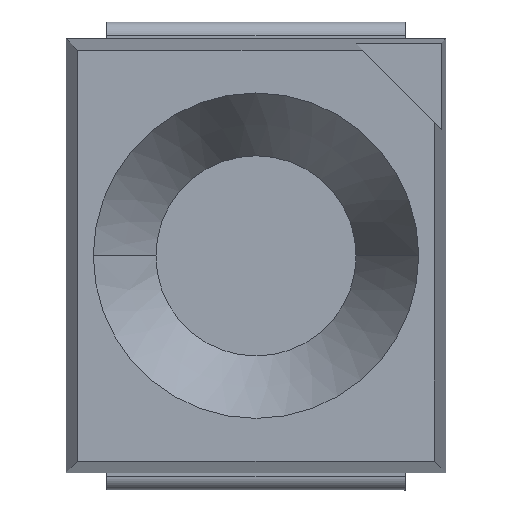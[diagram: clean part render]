
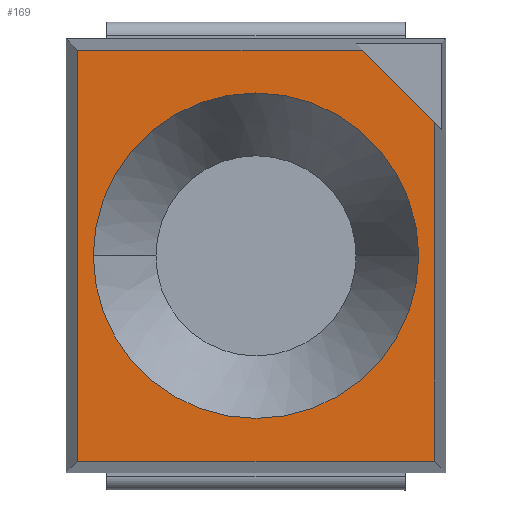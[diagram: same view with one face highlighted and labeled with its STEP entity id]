
A CAD part, top view. The second image highlights one B-rep face of the part: STEP entity #169.
In plain terms, the highlighted planar face has unit normal (0, 0, 1).
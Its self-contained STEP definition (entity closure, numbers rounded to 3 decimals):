
#169=ADVANCED_FACE('',(#265,#266),#267,.T.);
#265=FACE_OUTER_BOUND('',#368,.T.);
#266=FACE_BOUND('',#369,.T.);
#267=PLANE('',#370);
#368=EDGE_LOOP('',(#740,#741,#742,#743,#744));
#369=EDGE_LOOP('',(#745,#746));
#370=AXIS2_PLACEMENT_3D('',#747,#748,#749);
#740=ORIENTED_EDGE('',*,*,#828,.T.);
#741=ORIENTED_EDGE('',*,*,#833,.F.);
#742=ORIENTED_EDGE('',*,*,#863,.F.);
#743=ORIENTED_EDGE('',*,*,#865,.F.);
#744=ORIENTED_EDGE('',*,*,#834,.F.);
#745=ORIENTED_EDGE('',*,*,#805,.T.);
#746=ORIENTED_EDGE('',*,*,#838,.T.);
#747=CARTESIAN_POINT('',(0.001,0.,0.003));
#748=DIRECTION('',(0.0,-0.0,1.0));
#749=DIRECTION('',(0.,1.0,0.0));
#805=EDGE_CURVE('',#959,#956,#960,.T.);
#828=EDGE_CURVE('',#1000,#998,#1001,.T.);
#833=EDGE_CURVE('',#1007,#998,#1009,.T.);
#834=EDGE_CURVE('',#1000,#1010,#1011,.T.);
#838=EDGE_CURVE('',#956,#959,#1016,.T.);
#863=EDGE_CURVE('',#1054,#1007,#1055,.T.);
#865=EDGE_CURVE('',#1010,#1054,#1057,.T.);
#956=VERTEX_POINT('',#1190);
#959=VERTEX_POINT('',#1194);
#960=CIRCLE('',#1195,1.2);
#998=VERTEX_POINT('',#1245);
#1000=VERTEX_POINT('',#1248);
#1001=LINE('',#1249,#1250);
#1007=VERTEX_POINT('',#1259);
#1009=LINE('',#1262,#1263);
#1010=VERTEX_POINT('',#1264);
#1011=LINE('',#1265,#1266);
#1016=CIRCLE('',#1273,1.2);
#1054=VERTEX_POINT('',#1335);
#1055=LINE('',#1336,#1337);
#1057=LINE('',#1340,#1341);
#1190=CARTESIAN_POINT('',(1.201,0.,0.003));
#1194=CARTESIAN_POINT('',(-1.199,0.,0.003));
#1195=AXIS2_PLACEMENT_3D('',#1421,#1422,#1423);
#1245=CARTESIAN_POINT('',(0.785,1.516,0.003));
#1248=CARTESIAN_POINT('',(1.317,0.984,0.003));
#1249=CARTESIAN_POINT('',(1.317,0.984,0.003));
#1250=VECTOR('',#1464,0.752);
#1259=CARTESIAN_POINT('',(-1.315,1.516,0.003));
#1262=CARTESIAN_POINT('',(-1.315,1.516,0.003));
#1263=VECTOR('',#1469,2.1);
#1264=CARTESIAN_POINT('',(1.317,-1.516,0.003));
#1265=CARTESIAN_POINT('',(1.317,0.984,0.003));
#1266=VECTOR('',#1470,2.5);
#1273=AXIS2_PLACEMENT_3D('',#1476,#1477,#1478);
#1335=CARTESIAN_POINT('',(-1.315,-1.516,0.003));
#1336=CARTESIAN_POINT('',(-1.315,-1.516,0.003));
#1337=VECTOR('',#1503,3.032);
#1340=CARTESIAN_POINT('',(1.317,-1.516,0.003));
#1341=VECTOR('',#1505,2.632);
#1421=CARTESIAN_POINT('',(0.001,0.,0.003));
#1422=DIRECTION('',(0.0,-0.0,-1.0));
#1423=DIRECTION('',(1.0,0.,0.0));
#1464=DIRECTION('',(-0.707,0.707,0.0));
#1469=DIRECTION('',(1.0,0.,0.0));
#1470=DIRECTION('',(0.,-1.0,0.0));
#1476=CARTESIAN_POINT('',(0.001,0.,0.003));
#1477=DIRECTION('',(0.0,-0.0,-1.0));
#1478=DIRECTION('',(1.0,0.,0.0));
#1503=DIRECTION('',(0.,1.0,0.0));
#1505=DIRECTION('',(-1.0,0.,0.0));
